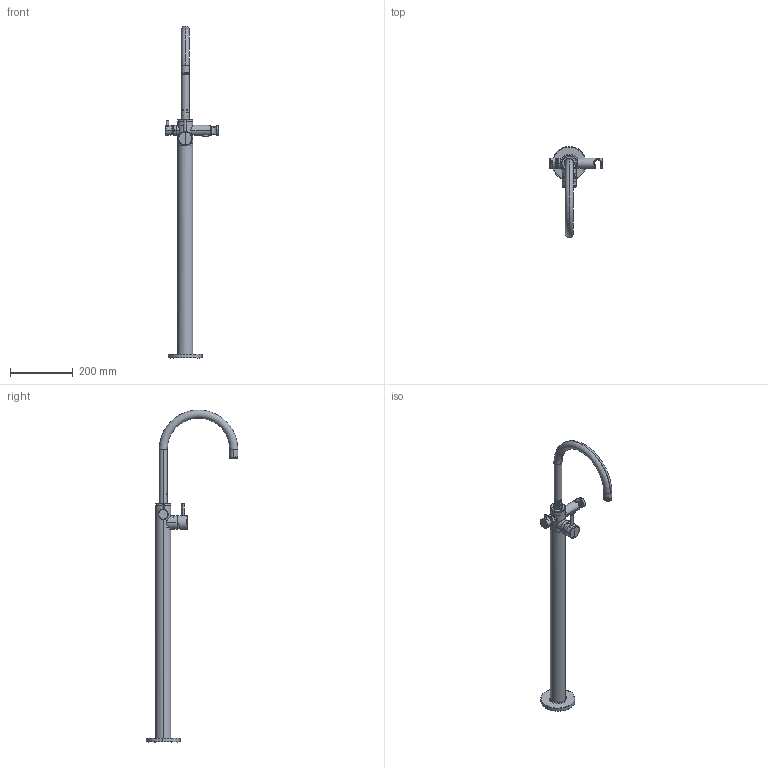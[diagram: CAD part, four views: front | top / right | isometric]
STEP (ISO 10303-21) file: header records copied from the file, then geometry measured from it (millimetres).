
FILE_DESCRIPTION (( 'STEP AP203' ), '1' );
FILE_NAME ('PVT2.STEP', '2024-02-05T10:30:58', ( '' ), ( '' ), 'SwSTEP 2.0', 'SolidWorks 2023', '' );
FILE_SCHEMA (( 'CONFIG_CONTROL_DESIGN' ));
Length unit declared in the file: millimetre
Products named in the file (48): 003.STEP; 177710.STEP; GRANI serie_050615.STEP; 002_AF0.STEP; 177316a.STEP; 000201g.STEP; 177709.STEP; OR serie_050764.STEP; 575451.STEP; 177702.STEP; OR serie_050625.STEP; 106238h.STEP; 3191979.E.STEP; 319208c.STEP; 177703.STEP; 177289.STEP; 775222.STEP; 006.STEP; OR serie_050634.STEP; 177706.STEP; PVT2; 177704.STEP; 177760.STEP; 177306c.STEP; 575459.STEP; 177314a.STEP; 177304.STEP; OR serie_050619.STEP; 007.STEP; 004.STEP; OR serie_050763.STEP; 177312Z.STEP; 177318.STEP; 177761.STEP; 177366.STEP; 177718_.STEP; 005.STEP; 177755.STEP; GRANI serie_050631.STEP; OR serie_325210.STEP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
Assembly tree (51 placements, depth 4):
  PVT2
    3191979.E.STEP
      177312Z.STEP
        177312e.STEP
        OR serie_050619.STEP  x2
        177316a.STEP
        177314a.STEP
        OR serie_050634.STEP
      177718_.STEP
        001_AF0.STEP
        002_AF0.STEP
        003.STEP
        004.STEP
        005.STEP
        006.STEP
        007.STEP
      177702.STEP
      177703.STEP
      177704.STEP
      177706.STEP
      319208c.STEP
      177705.STEP
      177304.STEP
      177306c.STEP
      177278.STEP
      000201g.STEP
      177761.STEP
      106238h.STEP
      448133.STEP
      177710.STEP
      OR serie_050764.STEP
      575454b.STEP
      OR serie_050634.STEP
      OR serie_050625.STEP  x2
      177755.STEP
      575459.STEP
      177318.STEP
      775222.STEP
      OR serie_325210.STEP
      575451.STEP
      177709.STEP
      177760.STEP
      177707.STEP
      177366.STEP
      OR serie_050763.STEP
      GRANI serie_050631.STEP
      GRANI serie_050615.STEP
      GRANI serie_050627.STEP  x2
      177289.STEP
Bounding box: 172.3 x 292.48 x 1059.82 mm (x, y, z)
Volume: 680579.7 mm3; surface area: 490026.2 mm2
Topology: 54 solids, 54 shells, 3189 faces, 8188 edges, 5117 vertices
Faces by surface type: cylinder 1254, plane 1014, cone 440, bspline 302, torus 150, sphere 29
Entity records: 130560 total; most frequent: CARTESIAN_POINT 52129, ORIENTED_EDGE 16168, DIRECTION 14364, EDGE_CURVE 8084, AXIS2_PLACEMENT_3D 5595, VERTEX_POINT 5082, EDGE_LOOP 3384, LINE 3174
